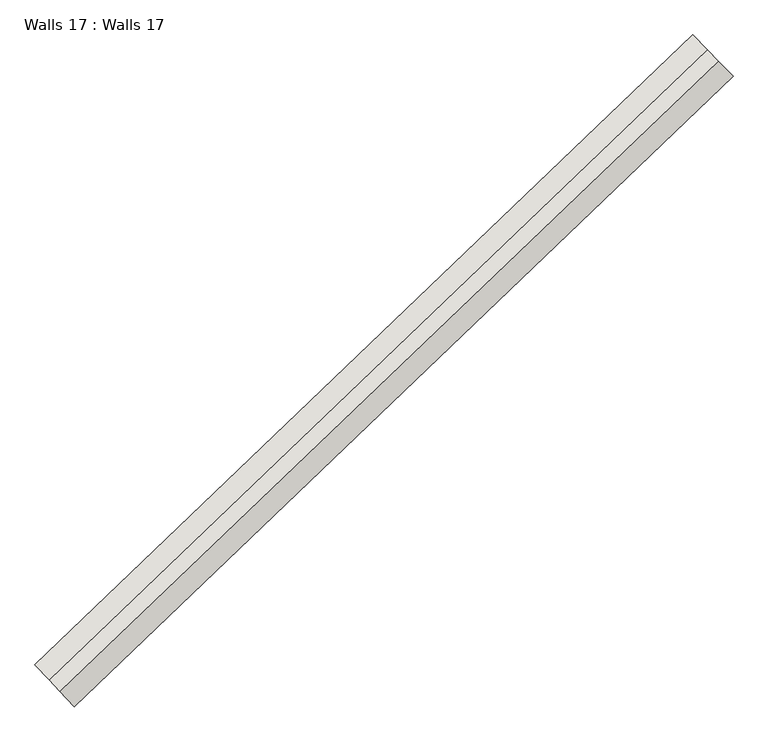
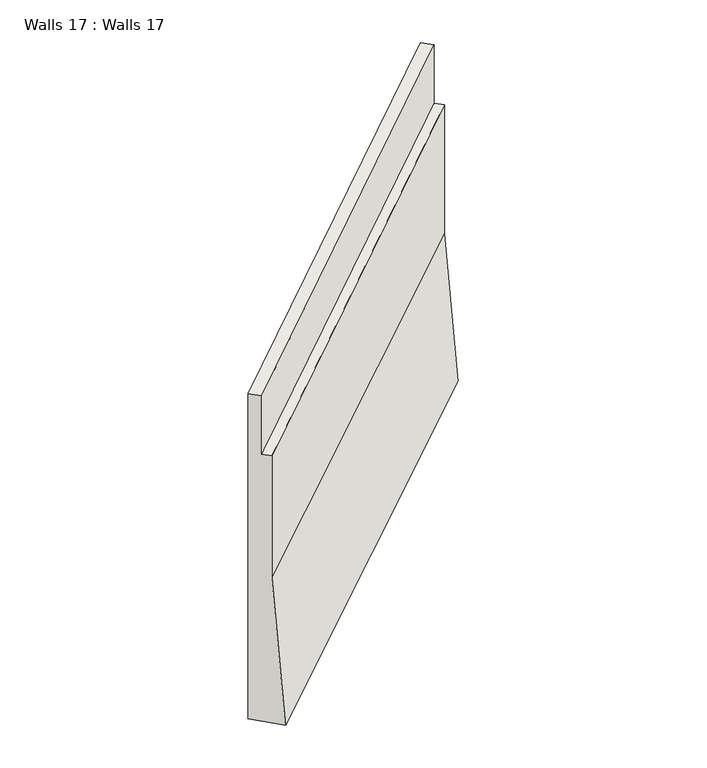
"""IFC4 building model written with IfcOpenShell, lengths in millimetres: wall geometry, Walls 17 : Walls 17."""

import ifcopenshell
import ifcopenshell.guid

model = None  # the IFC model being written
_history = None  # IfcOwnerHistory: only IFC2X3 demands one
_inside = {}  # id of a spatial element -> (the spatial element, [elements in it])
_under = {}  # id of a project, library or spatial element -> (it, [spatial elements below it])
_declared = {}  # id of a project -> (the project, [libraries it declares])
_typed = {}  # id of a type object -> (the type object, [elements of that type])
_made_of = {}  # id of a material, layer set ... -> (it, [elements and type objects made of it])


def new_model(schema):
    """Start an empty IFC model of exactly this schema.

    Asked for "IFC4X3", IfcOpenShell would pick the latest addendum, in which some entities
    have other attributes; the version numbers below select the first issue.
    IFC2X3 requires an IfcOwnerHistory on every rooted entity: one is made here for all.
    """
    global model, _history
    if schema == "IFC4X3":
        model = ifcopenshell.file(schema_version=(4, 3, 0, 0))
    else:
        model = ifcopenshell.file(schema=schema)
    _inside.clear()
    _under.clear()
    _declared.clear()
    _typed.clear()
    _made_of.clear()
    _history = None
    if model.schema == "IFC2X3":
        org = make("IfcOrganization", Name="unknown")
        user = make(
            "IfcPersonAndOrganization",
            ThePerson=make("IfcPerson", FamilyName="unknown"),
            TheOrganization=org,
        )
        app = make(
            "IfcApplication",
            ApplicationDeveloper=org,
            Version="unknown",
            ApplicationFullName="unknown",
            ApplicationIdentifier="unknown",
        )
        _history = make(
            "IfcOwnerHistory",
            OwningUser=user,
            OwningApplication=app,
            ChangeAction="ADDED",
            CreationDate=0,
        )
    return model


def make(cls, **values):
    """One entity of the class cls with the attributes given. An attribute that is None is left unset."""
    return model.create_entity(
        cls, **{name: value for name, value in values.items() if value is not None}
    )


def rooted(cls, **values):
    """An entity with a GlobalId (a new one), such as an element, a storey or a relation."""
    return make(cls, GlobalId=ifcopenshell.guid.new(), OwnerHistory=_history, **values)


def si_unit(unit_type, name, prefix=None):
    """IfcSIUnit, for example si_unit("LENGTHUNIT", "METRE", prefix="MILLI")."""
    return make("IfcSIUnit", UnitType=unit_type, Prefix=prefix, Name=name)


def assignment(units):
    """IfcUnitAssignment: the units of a project."""
    return None if units is None else make("IfcUnitAssignment", Units=units)


def point(xyz):
    """IfcCartesianPoint."""
    return None if xyz is None else make("IfcCartesianPoint", Coordinates=xyz)


def direction(xyz):
    """IfcDirection."""
    return None if xyz is None else make("IfcDirection", DirectionRatios=xyz)


def frame(location, z_axis=None, x_axis=None):
    """IfcAxis2Placement3D, a coordinate frame: its origin and axes. An axis left out is left unset."""
    return make(
        "IfcAxis2Placement3D",
        Location=point(location),
        Axis=direction(z_axis),
        RefDirection=direction(x_axis),
    )


def origin():
    """The frame at (0, 0, 0) with its axes left unset."""
    return frame((0.0, 0.0, 0.0))


def place(relative_to, where):
    """IfcLocalPlacement: puts the frame where relative to a parent placement (None: the world)."""
    return make(
        "IfcLocalPlacement", PlacementRelTo=relative_to, RelativePlacement=where
    )


def context(
    kind, dimensions, precision=None, world=None, true_north=None, identifier=None
):
    """IfcGeometricRepresentationContext, for example the 3D "Model" context."""
    return make(
        "IfcGeometricRepresentationContext",
        ContextIdentifier=identifier,
        ContextType=kind,
        CoordinateSpaceDimension=dimensions,
        Precision=precision,
        WorldCoordinateSystem=world,
        TrueNorth=true_north,
    )


def project(units=None, contexts=None):
    """IfcProject with its units and contexts."""
    return rooted(
        "IfcProject",
        Name="project",
        RepresentationContexts=contexts,
        UnitsInContext=assignment(units),
    )


def spatial(cls, under=None, at=None, **own):
    """A site, building, storey or space (cls), placed at a placement, below another one or the project."""
    s = rooted(cls, ObjectPlacement=at, **own)
    if under is not None:
        _under.setdefault(under.id(), (under, []))[1].append(s)
    return s


def shape(context_of_items, identifier, shape_type, items):
    """IfcShapeRepresentation: the items that make up one representation, for example the "Body"."""
    return make(
        "IfcShapeRepresentation",
        ContextOfItems=context_of_items,
        RepresentationIdentifier=identifier,
        RepresentationType=shape_type,
        Items=items,
    )


def source(mapping_origin, context_of_items, identifier, shape_type, items):
    """IfcRepresentationMap: a shape defined once, which mapped items show again and again."""
    return make(
        "IfcRepresentationMap",
        MappingOrigin=mapping_origin,
        MappedRepresentation=shape(context_of_items, identifier, shape_type, items),
    )


def transform(
    local_origin,
    x_axis=None,
    y_axis=None,
    z_axis=None,
    scale=None,
    scale2=None,
    scale3=None,
    uniform=True,
):
    """IfcCartesianTransformationOperator3D, or its non-uniform kind. x_axis, y_axis, z_axis: its Axis1, 2, 3."""
    if uniform:
        return make(
            "IfcCartesianTransformationOperator3D",
            Axis1=direction(x_axis),
            Axis2=direction(y_axis),
            LocalOrigin=point(local_origin),
            Scale=scale,
            Axis3=direction(z_axis),
        )
    return make(
        "IfcCartesianTransformationOperator3DnonUniform",
        Axis1=direction(x_axis),
        Axis2=direction(y_axis),
        LocalOrigin=point(local_origin),
        Scale=scale,
        Axis3=direction(z_axis),
        Scale2=scale2,
        Scale3=scale3,
    )


def mapped(mapping_source, mapping_target):
    """IfcMappedItem: shows the shape of a source again, moved by a transform."""
    return make(
        "IfcMappedItem", MappingSource=mapping_source, MappingTarget=mapping_target
    )


def made_of(thing, what):
    """Note that an element or type object is made of a material, layer set ...; save() writes the relation."""
    if what is not None:
        _made_of.setdefault(what.id(), (what, []))[1].append(thing)
    return thing


def element(
    cls,
    number,
    at=None,
    inside=None,
    cuts=None,
    type_object=None,
    material=None,
    context=None,
    identifier="Body",
    shape_type=None,
    held_by="IfcProductDefinitionShape",
    body=None,
    shapes=None,
    **own,
):
    """One element of the class cls, such as IfcWall. Its Tag is "e" and its number.

    at: its placement. inside: the storey or other place that contains it. cuts: it is an
    opening in that element (IfcRelVoidsElement). A single representation is given by context,
    identifier, shape_type and body (its items); several are given by shapes. held_by: the class
    of the entity that holds the representations. save() writes the other relations.
    """
    e = rooted(cls, Tag="e%d" % number, ObjectPlacement=at, **own)
    if body is not None:
        shapes = [shape(context, identifier, shape_type, body)]
    if shapes is not None:
        e.Representation = make(held_by, Representations=shapes)
    if inside is not None:
        _inside.setdefault(inside.id(), (inside, []))[1].append(e)
    if cuts is not None:
        rooted(
            "IfcRelVoidsElement", RelatingBuildingElement=cuts, RelatedOpeningElement=e
        )
    if type_object is not None:
        _typed.setdefault(type_object.id(), (type_object, []))[1].append(e)
    return made_of(e, material)


def aggregate(whole, parts):
    """IfcRelAggregates: a whole, such as a stair, and the parts it consists of."""
    return rooted("IfcRelAggregates", RelatingObject=whole, RelatedObjects=parts)


def save(model, path):
    """Write the relations noted so far, then the file.

    IfcRelAggregates (storeys below a building ...), IfcRelContainedInSpatialStructure (elements
    in a storey), IfcRelDefinesByType, IfcRelAssociatesMaterial and IfcRelDeclares: one each for
    every whole, place, type object, material and project.
    """
    for whole, parts in _under.values():
        aggregate(whole, parts)
    for where, things in _inside.values():
        rooted(
            "IfcRelContainedInSpatialStructure",
            RelatedElements=things,
            RelatingStructure=where,
        )
    for kind, things in _typed.values():
        rooted("IfcRelDefinesByType", RelatedObjects=things, RelatingType=kind)
    for what, things in _made_of.values():
        rooted("IfcRelAssociatesMaterial", RelatedObjects=things, RelatingMaterial=what)
    for by, libraries in _declared.values():
        rooted("IfcRelDeclares", RelatingContext=by, RelatedDefinitions=libraries)
    model.write(path)


def plane_surface(at):
    """IfcPlane: the flat surface through the origin of the frame at, square to its z axis."""
    return make("IfcPlane", Position=at)


def spline_curve(degree, points, multiplicities, knots, weights=None):
    """IfcBSplineCurveWithKnots; with weights, IfcRationalBSplineCurveWithKnots."""
    own = dict(
        Degree=degree,
        ControlPointsList=[point(p) for p in points],
        CurveForm="UNSPECIFIED",
        ClosedCurve=False,
        SelfIntersect=False,
        KnotMultiplicities=multiplicities,
        Knots=knots,
        KnotSpec="UNSPECIFIED",
    )
    if weights is None:
        return make("IfcBSplineCurveWithKnots", **own)
    return make("IfcRationalBSplineCurveWithKnots", WeightsData=weights, **own)


def spline_surface(u_degree, v_degree, points, u_multiplicities, v_multiplicities, u_knots, v_knots, weights=None):
    """IfcBSplineSurfaceWithKnots; with weights, IfcRationalBSplineSurfaceWithKnots. points: one row for each step in u."""
    own = dict(
        UDegree=u_degree,
        VDegree=v_degree,
        ControlPointsList=[[point(p) for p in row] for row in points],
        SurfaceForm="UNSPECIFIED",
        UClosed=False,
        VClosed=False,
        SelfIntersect=False,
        UMultiplicities=u_multiplicities,
        VMultiplicities=v_multiplicities,
        UKnots=u_knots,
        VKnots=v_knots,
        KnotSpec="UNSPECIFIED",
    )
    if weights is None:
        return make("IfcBSplineSurfaceWithKnots", **own)
    return make("IfcRationalBSplineSurfaceWithKnots", WeightsData=weights, **own)


def advanced_brep(points, edges, surfaces, faces):
    """IfcAdvancedBrep: a solid bounded by faces that lie on surfaces and meet in shared edges.

    An edge is (start, end): straight between two places in points (the first is 0);
    or (start, end, curve); or (start, end, curve, False) where it runs against its curve.
    A face is (place in surfaces, loops), or (place, loops, False) where it looks against
    its surface's normal. A loop lists edges by number (the first is 1), with a minus sign
    where the edge is run from its end to its start. The first loop is the outer one.
    """
    corners = [point(p) for p in points]
    vertices = [make("IfcVertexPoint", VertexGeometry=c) for c in corners]
    made = []
    for start, end, *more in edges:
        made.append(
            make(
                "IfcEdgeCurve",
                EdgeStart=vertices[start],
                EdgeEnd=vertices[end],
                EdgeGeometry=more[0] if more else make("IfcPolyline", Points=[corners[start], corners[end]]),
                SameSense=more[1] if len(more) > 1 else True,
            )
        )
    hull = []
    for where, loops, *sense in faces:
        bounds = []
        for j, loop in enumerate(loops):
            ring = [make("IfcOrientedEdge", EdgeElement=made[abs(k) - 1], Orientation=k > 0) for k in loop]
            bounds.append(
                make(
                    "IfcFaceOuterBound" if j == 0 else "IfcFaceBound",
                    Bound=make("IfcEdgeLoop", EdgeList=ring),
                    Orientation=True,
                )
            )
        hull.append(make("IfcAdvancedFace", Bounds=bounds, FaceSurface=surfaces[where], SameSense=sense[0] if sense else True))
    return make("IfcAdvancedBrep", Outer=make("IfcClosedShell", CfsFaces=hull))


def walls_17_walls_17_eb71f948(model_context):
    return source(origin(), model_context, "Body", "AdvancedBrep", [
        advanced_brep(
        [(-239260.8845429, -399849.826162, 635340.0), (-239645.6540848, -399457.7386305, 635340.0), (-239645.6540848, -399457.7386305, 641060.0), (-239505.7378877, -399600.3159147, 641060.0), (-239505.7378877, -399600.3159147, 640060.0), (-239400.8007399, -399707.2488778, 640060.0), (-239400.8007399, -399707.2488778, 637840.0), (-245553.4166961, -405876.6503575, 635270.0), (-245689.8866045, -405730.6911068, 637770.0), (-245689.8866045, -405730.6911068, 639870.0), (-245792.2390358, -405621.2216688, 639870.0), (-245792.2390358, -405621.2216688, 640870.0), (-245928.7089442, -405475.2624181, 640870.0), (-245928.7089442, -405475.2624181, 635270.0)],
        [
            (0, 1),
            (1, 2),
            (2, 3),
            (3, 4),
            (4, 5),
            (5, 6),
            (6, 0),
            (7, 8),
            (8, 9),
            (9, 10),
            (10, 11),
            (11, 12),
            (12, 13),
            (13, 7),
            (12, 2, spline_curve(3, [(-245928.7089442, -405475.2624181, 640870.0), (-243810.224059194, -403494.827462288, 640933.333333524), (-241715.668545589, -401488.79098546, 640996.666666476), (-239645.6540848, -399457.7386305, 641060.0)], [4, 4], [0.0, 28.546516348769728])),
            (1, 13, spline_curve(3, [(-239645.6540848, -399457.7386305, 635340.0), (-241715.668545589, -401488.79098546, 635316.666666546), (-243810.224059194, -403494.827462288, 635293.333333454), (-245928.7089442, -405475.2624181, 635270.0)], [4, 4], [0.0, 28.546516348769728])),
            (11, 3, spline_curve(3, [(-245792.2390358, -405621.2216688, 640870.0), (-243672.59165077, -403639.673165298, 640933.333333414), (-241576.887265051, -401632.509253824, 640996.666666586), (-239505.7378877, -399600.3159147, 641060.0)], [4, 4], [0.0, 28.558054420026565])),
            (10, 4, spline_curve(3, [(-245792.2390358, -405621.2216688, 639870.0), (-243672.591650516, -403639.673164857, 639933.333333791), (-241576.887265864, -401632.509253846, 639996.666666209), (-239505.7378877, -399600.3159147, 640060.0)], [4, 4], [0.0, 28.5659728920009])),
            (9, 5, spline_curve(3, [(-245689.8866045, -405730.6911068, 639870.0), (-243569.367344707, -403748.307442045, 639933.333332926), (-241472.801304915, -401740.297955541, 639996.666667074), (-239400.8007399, -399707.2488778, 640060.0)], [4, 4], [0.0, 28.571911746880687])),
            (8, 6, spline_curve(3, [(-245689.8866045, -405730.6911068, 637770.0), (-243569.367344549, -403748.307442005, 637793.333333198), (-241472.801304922, -401740.297954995, 637816.666666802), (-239400.8007399, -399707.2488778, 637840.0)], [4, 4], [0.0, 28.57423451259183])),
            (7, 0, spline_curve(3, [(-245553.4166961, -405876.6503575, 635270.0), (-243431.734936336, -403893.15314513, 635293.333333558), (-241334.020025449, -401884.01622362, 635316.666666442), (-239260.8845429, -399849.826162, 635340.0)], [4, 4], [0.0, 28.579894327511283])),
        ],
        [
            plane_surface(frame((-239480.7528525, -399625.776144, 638680.0), z_axis=(0.7137360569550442, 0.7004147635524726, 0.0), x_axis=(0.7004147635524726, -0.7137360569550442, 0.0))),
            plane_surface(frame((-245767.8694093, -405647.2858207, 638541.4285714), z_axis=(-0.7304526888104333, -0.6829633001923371, 0.0), x_axis=(-0.6829633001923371, 0.7304526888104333, 0.0))),
            spline_surface(3, 3, [[(-245928.7089442, -405475.2624181, 635270.0), (-243810.224058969, -403494.827461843, 635293.333333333), (-241715.668545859, -401488.790985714, 635316.666666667), (-239645.6540848, -399457.7386305, 635340.0)], [(-245928.7089442, -405475.2624181, 637136.666666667), (-243810.224058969, -403494.827461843, 637173.333333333), (-241715.668545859, -401488.790985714, 637210.0), (-239645.6540848, -399457.7386305, 637246.666666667)], [(-245928.7089442, -405475.2624181, 639003.333333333), (-243810.224058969, -403494.827461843, 639053.333333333), (-241715.668545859, -401488.790985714, 639103.333333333), (-239645.6540848, -399457.7386305, 639153.333333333)], [(-245928.7089442, -405475.2624181, 640870.0), (-243810.224058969, -403494.827461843, 640933.333333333), (-241715.668545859, -401488.790985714, 640996.666666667), (-239645.6540848, -399457.7386305, 641060.0)]], [4, 4], [4, 4], [0.0, 18.569553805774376], [0.0, 28.546516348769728]),
            spline_surface(3, 3, [[(-245928.7089442, -405475.2624181, 640870.0), (-243810.224058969, -403494.827461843, 640933.333333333), (-241715.668545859, -401488.790985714, 640996.666666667), (-239645.6540848, -399457.7386305, 641060.0)], [(-245883.218974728, -405523.915501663, 640870.0), (-243764.346589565, -403543.109362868, 640933.333333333), (-241669.408119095, -401536.697075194, 640996.666666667), (-239599.015352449, -399505.264391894, 641060.0)], [(-245837.729005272, -405572.568585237, 640870.0), (-243718.469120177, -403591.391263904, 640933.333333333), (-241623.147692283, -401584.603164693, 640996.666666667), (-239552.376620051, -399552.790153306, 641060.0)], [(-245792.2390358, -405621.2216688, 640870.0), (-243672.591650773, -403639.67316493, 640933.333333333), (-241576.88726552, -401632.509254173, 640996.666666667), (-239505.7378877, -399600.3159147, 641060.0)]], [4, 4], [4, 4], [0.0, 0.6554825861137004], [0.0, 28.558054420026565]),
            spline_surface(3, 3, [[(-245792.2390358, -405621.2216688, 640870.0), (-243672.591650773, -403639.67316493, 640933.333333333), (-241576.88726552, -401632.509254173, 640996.666666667), (-239505.7378877, -399600.3159147, 641060.0)], [(-245792.2390358, -405621.2216688, 640536.666666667), (-243672.591650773, -403639.67316493, 640600.0), (-241576.88726552, -401632.509254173, 640663.333333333), (-239505.7378877, -399600.3159147, 640726.666666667)], [(-245792.2390358, -405621.2216688, 640203.333333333), (-243672.591650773, -403639.67316493, 640266.666666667), (-241576.88726552, -401632.509254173, 640330.0), (-239505.7378877, -399600.3159147, 640393.333333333)], [(-245792.2390358, -405621.2216688, 639870.0), (-243672.591650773, -403639.67316493, 639933.333333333), (-241576.88726552, -401632.509254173, 639996.666666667), (-239505.7378877, -399600.3159147, 640060.0)]], [4, 4], [4, 4], [0.0, 3.2808398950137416], [0.0, 28.5659728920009]),
            spline_surface(3, 3, [[(-245792.2390358, -405621.2216688, 639870.0), (-243672.591650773, -403639.67316493, 639933.333333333), (-241576.88726552, -401632.509254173, 639996.666666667), (-239505.7378877, -399600.3159147, 640060.0)], [(-245758.121558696, -405657.711481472, 639870.0), (-243638.18354872, -403675.884590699, 639933.333333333), (-241542.191945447, -401668.438821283, 639996.666666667), (-239470.758838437, -399635.960235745, 640060.0)], [(-245724.004081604, -405694.201294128, 639870.0), (-243603.775446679, -403712.096016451, 639933.333333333), (-241507.496625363, -401704.368388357, 639996.666666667), (-239435.779789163, -399671.604556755, 640060.0)], [(-245689.8866045, -405730.6911068, 639870.0), (-243569.367344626, -403748.30744222, 639933.333333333), (-241472.80130529, -401740.297955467, 639996.666666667), (-239400.8007399, -399707.2488778, 640060.0)]], [4, 4], [4, 4], [0.0, 0.49161193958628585], [0.0, 28.571911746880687]),
            spline_surface(3, 3, [[(-245689.8866045, -405730.6911068, 639870.0), (-243569.367344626, -403748.30744222, 639933.333333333), (-241472.80130529, -401740.297955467, 639996.666666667), (-239400.8007399, -399707.2488778, 640060.0)], [(-245689.8866045, -405730.6911068, 639170.0), (-243569.367344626, -403748.30744222, 639220.0), (-241472.80130529, -401740.297955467, 639270.0), (-239400.8007399, -399707.2488778, 639320.0)], [(-245689.8866045, -405730.6911068, 638470.0), (-243569.367344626, -403748.30744222, 638506.666666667), (-241472.80130529, -401740.297955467, 638543.333333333), (-239400.8007399, -399707.2488778, 638580.0)], [(-245689.8866045, -405730.6911068, 637770.0), (-243569.367344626, -403748.30744222, 637793.333333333), (-241472.80130529, -401740.297955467, 637816.666666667), (-239400.8007399, -399707.2488778, 637840.0)]], [4, 4], [4, 4], [0.0, 7.086614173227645], [0.0, 28.57423451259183]),
            spline_surface(3, 3, [[(-245689.8866045, -405730.6911068, 637770.0), (-243569.367344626, -403748.30744222, 637793.333333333), (-241472.80130529, -401740.297955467, 637816.666666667), (-239400.8007399, -399707.2488778, 637840.0)], [(-245644.396635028, -405779.344190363, 636936.666666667), (-243523.489875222, -403796.589343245, 636960.0), (-241426.540878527, -401788.204044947, 636983.333333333), (-239354.162007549, -399754.774639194, 637006.666666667)], [(-245598.906665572, -405827.997273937, 636103.333333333), (-243477.612405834, -403844.871244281, 636126.666666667), (-241380.280451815, -401836.110134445, 636150.0), (-239307.523275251, -399802.300400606, 636173.333333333)], [(-245553.4166961, -405876.6503575, 635270.0), (-243431.73493643, -403893.153145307, 635293.333333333), (-241334.020025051, -401884.016223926, 635316.666666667), (-239260.8845429, -399849.826162, 635340.0)]], [4, 4], [4, 4], [0.0, 8.228249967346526], [0.0, 28.579894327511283]),
            spline_surface(3, 3, [[(-245553.4166961, -405876.6503575, 635270.0), (-243431.73493643, -403893.153145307, 635293.333333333), (-241334.020025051, -401884.016223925, 635316.666666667), (-239260.8845429, -399849.826162, 635340.0)], [(-245678.514112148, -405742.854377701, 635270.0), (-243557.897977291, -403760.377917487, 635293.333333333), (-241461.236198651, -401752.274477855, 635316.666666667), (-239389.141056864, -399719.130318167, 635340.0)], [(-245803.611528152, -405609.058397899, 635270.0), (-243684.061018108, -403627.602689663, 635293.333333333), (-241588.452372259, -401620.532731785, 635316.666666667), (-239517.397570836, -399588.434474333, 635340.0)], [(-245928.7089442, -405475.2624181, 635270.0), (-243810.224058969, -403494.827461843, 635293.333333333), (-241715.668545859, -401488.790985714, 635316.666666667), (-239645.6540848, -399457.7386305, 635340.0)]], [4, 4], [4, 4], [0.0, 1.8025771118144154], [0.0, 28.566034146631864]),
        ],
        [
            (0, [[1, 2, 3, 4, 5, 6, 7]]),
            (1, [[8, 9, 10, 11, 12, 13, 14]]),
            (2, [[-13, 15, -2, 16]]),
            (3, [[-12, 17, -3, -15]]),
            (4, [[-11, 18, -4, -17]]),
            (5, [[-10, 19, -5, -18]]),
            (6, [[-9, 20, -6, -19]]),
            (7, [[-8, 21, -7, -20]]),
            (8, [[-14, -16, -1, -21]]),
        ],
    ),
    ])


if __name__ == "__main__":
    model = new_model("IFC4")
    model_context = context("Model", 3, world=origin())
    ifc_project = project(units=[si_unit("LENGTHUNIT", "METRE", prefix="MILLI")], contexts=[model_context])
    site = spatial("IfcSite", under=ifc_project)
    building = spatial("IfcBuilding", under=site)
    placement = place(None, origin())
    walls_17_walls_17_shape = walls_17_walls_17_eb71f948(model_context)
    element("IfcWall", 1, ObjectType="Walls 17 : Walls 17", at=placement, inside=building, context=model_context, shape_type="MappedRepresentation", body=[
        mapped(walls_17_walls_17_shape, transform((0.0, 0.0, 0.0), x_axis=(1.0, 0.0, 0.0), y_axis=(0.0, 1.0, 0.0), z_axis=(0.0, 0.0, 1.0))),
    ])
    save(model, "model.ifc")
